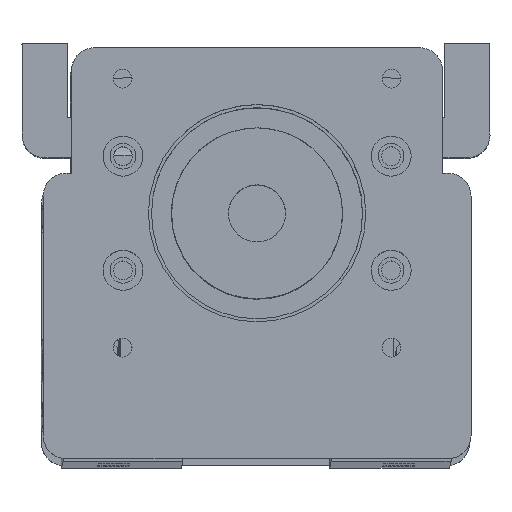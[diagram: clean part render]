
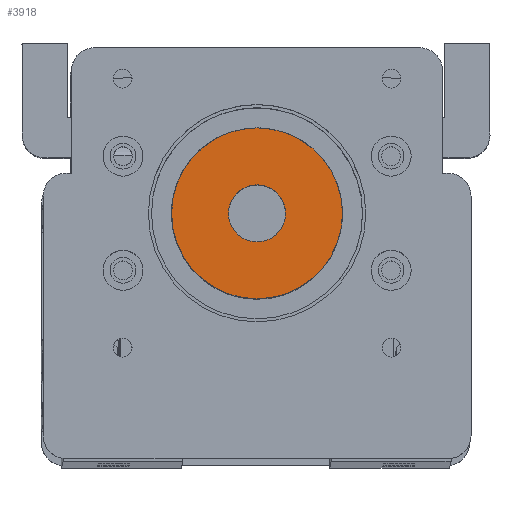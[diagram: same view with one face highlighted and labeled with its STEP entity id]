
A CAD part, top view. The second image highlights one B-rep face of the part: STEP entity #3918.
In plain terms, the highlighted planar face has unit normal (0, 0, 1).
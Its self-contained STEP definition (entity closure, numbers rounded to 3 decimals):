
#2487 = AXIS2_PLACEMENT_3D ( 'NONE', #48308, #23723, #52459 ) ;
#2647 = AXIS2_PLACEMENT_3D ( 'NONE', #44379, #19836, #48504 ) ;
#2873 = VERTEX_POINT ( 'NONE', #42754 ) ;
#3892 = AXIS2_PLACEMENT_3D ( 'NONE', #45408, #20826, #49523 ) ;
#3918 = ADVANCED_FACE ( 'NONE', ( #37053, #46707 ), #20392, .T. ) ;
#6167 = VERTEX_POINT ( 'NONE', #45631 ) ;
#6875 = CIRCLE ( 'NONE', #2647, 5.003 ) ;
#8199 = CARTESIAN_POINT ( 'NONE',  ( -6.16, 0., 40.753 ) ) ;
#8356 = DIRECTION ( 'NONE',  ( 1., 0., 0. ) ) ;
#8732 = DIRECTION ( 'NONE',  ( 0., 0., 1. ) ) ;
#10429 = EDGE_CURVE ( 'NONE', #28089, #11364, #21197, .T. ) ;
#11364 = VERTEX_POINT ( 'NONE', #16599 ) ;
#15459 = EDGE_CURVE ( 'NONE', #11364, #28089, #41391, .T. ) ;
#16599 = CARTESIAN_POINT ( 'NONE',  ( 8.817, 0., 40.753 ) ) ;
#19836 = DIRECTION ( 'NONE',  ( 0., 0., 1. ) ) ;
#20392 = PLANE ( 'NONE',  #32371 ) ;
#20826 = DIRECTION ( 'NONE',  ( 0., 0., 1. ) ) ;
#21197 = CIRCLE ( 'NONE', #29384, 14.978 ) ;
#22488 = CIRCLE ( 'NONE', #3892, 5.003 ) ;
#23723 = DIRECTION ( 'NONE',  ( 0., 0., 1. ) ) ;
#28089 = VERTEX_POINT ( 'NONE', #32121 ) ;
#28146 = EDGE_LOOP ( 'NONE', ( #39767, #43430 ) ) ;
#29384 = AXIS2_PLACEMENT_3D ( 'NONE', #33266, #8732, #37367 ) ;
#32121 = CARTESIAN_POINT ( 'NONE',  ( -21.138, 0., 40.753 ) ) ;
#32371 = AXIS2_PLACEMENT_3D ( 'NONE', #8199, #32878, #8356 ) ;
#32878 = DIRECTION ( 'NONE',  ( 0., 0., 1. ) ) ;
#33266 = CARTESIAN_POINT ( 'NONE',  ( -6.16, 0., 40.753 ) ) ;
#37053 = FACE_OUTER_BOUND ( 'NONE', #45568, .T. ) ;
#37367 = DIRECTION ( 'NONE',  ( 1., 0., 0. ) ) ;
#39767 = ORIENTED_EDGE ( 'NONE', *, *, #51967, .F. ) ;
#41391 = CIRCLE ( 'NONE', #2487, 14.978 ) ;
#42634 = ORIENTED_EDGE ( 'NONE', *, *, #10429, .T. ) ;
#42754 = CARTESIAN_POINT ( 'NONE',  ( -11.163, 0., 40.753 ) ) ;
#43430 = ORIENTED_EDGE ( 'NONE', *, *, #48410, .F. ) ;
#44379 = CARTESIAN_POINT ( 'NONE',  ( -6.16, 0., 40.753 ) ) ;
#45408 = CARTESIAN_POINT ( 'NONE',  ( -6.16, 0., 40.753 ) ) ;
#45568 = EDGE_LOOP ( 'NONE', ( #42634, #48473 ) ) ;
#45631 = CARTESIAN_POINT ( 'NONE',  ( -1.157, 0., 40.753 ) ) ;
#46707 = FACE_BOUND ( 'NONE', #28146, .T. ) ;
#48308 = CARTESIAN_POINT ( 'NONE',  ( -6.16, 0., 40.753 ) ) ;
#48410 = EDGE_CURVE ( 'NONE', #6167, #2873, #22488, .T. ) ;
#48473 = ORIENTED_EDGE ( 'NONE', *, *, #15459, .T. ) ;
#48504 = DIRECTION ( 'NONE',  ( 1., 0., 0. ) ) ;
#49523 = DIRECTION ( 'NONE',  ( 1., 0., 0. ) ) ;
#51967 = EDGE_CURVE ( 'NONE', #2873, #6167, #6875, .T. ) ;
#52459 = DIRECTION ( 'NONE',  ( 1., 0., 0. ) ) ;
